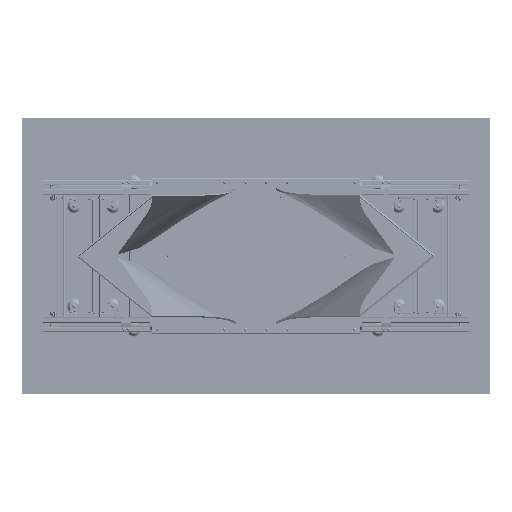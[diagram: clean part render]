
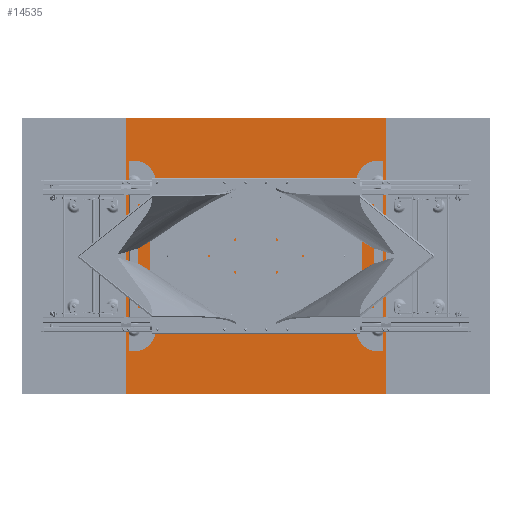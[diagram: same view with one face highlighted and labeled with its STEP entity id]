
A CAD part, front view. The second image highlights one B-rep face of the part: STEP entity #14535.
In plain terms, the highlighted planar face has unit normal (0, -1, 0).
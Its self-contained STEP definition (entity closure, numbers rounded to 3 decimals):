
#5089 = ORIENTED_EDGE ( 'NONE', *, *, #10940, .F. ) ;
#6742 = FACE_OUTER_BOUND ( 'NONE', #7644, .T. ) ;
#7644 = EDGE_LOOP ( 'NONE', ( #12266, #48451, #8555, #5089 ) ) ;
#8555 = ORIENTED_EDGE ( 'NONE', *, *, #45715, .T. ) ;
#10940 = EDGE_CURVE ( 'NONE', #11315, #30608, #69799, .T. ) ;
#11315 = VERTEX_POINT ( 'NONE', #60608 ) ;
#12266 = ORIENTED_EDGE ( 'NONE', *, *, #35163, .F. ) ;
#14535 = ADVANCED_FACE ( 'NONE', ( #6742 ), #63275, .F. ) ;
#15495 = CARTESIAN_POINT ( 'NONE',  ( 900., 0., -530. ) ) ;
#19225 = VERTEX_POINT ( 'NONE', #32298 ) ;
#26910 = VECTOR ( 'NONE', #44068, 1000. ) ;
#27845 = CARTESIAN_POINT ( 'NONE',  ( 900., 0., 530. ) ) ;
#28167 = EDGE_CURVE ( 'NONE', #19225, #74761, #35026, .T. ) ;
#30608 = VERTEX_POINT ( 'NONE', #65678 ) ;
#30853 = DIRECTION ( 'NONE',  ( 0., 1., 0. ) ) ;
#30857 = VECTOR ( 'NONE', #47521, 1000. ) ;
#32096 = CARTESIAN_POINT ( 'NONE',  ( 0., 0., 0. ) ) ;
#32298 = CARTESIAN_POINT ( 'NONE',  ( 900., 0., -530. ) ) ;
#35026 = LINE ( 'NONE', #15495, #30857 ) ;
#35163 = EDGE_CURVE ( 'NONE', #19225, #11315, #65145, .T. ) ;
#40758 = DIRECTION ( 'NONE',  ( -1., 0., 0. ) ) ;
#41442 = VECTOR ( 'NONE', #46880, 1000. ) ;
#44068 = DIRECTION ( 'NONE',  ( 0., 0., 1. ) ) ;
#45715 = EDGE_CURVE ( 'NONE', #74761, #30608, #67703, .T. ) ;
#46081 = CARTESIAN_POINT ( 'NONE',  ( 900., 0., -530. ) ) ;
#46880 = DIRECTION ( 'NONE',  ( -1., 0., 0. ) ) ;
#47226 = AXIS2_PLACEMENT_3D ( 'NONE', #32096, #30853, #51238 ) ;
#47521 = DIRECTION ( 'NONE',  ( 0., 0., 1. ) ) ;
#48451 = ORIENTED_EDGE ( 'NONE', *, *, #28167, .T. ) ;
#49476 = CARTESIAN_POINT ( 'NONE',  ( -900., 0., -530. ) ) ;
#51238 = DIRECTION ( 'NONE',  ( 0., 0., 1. ) ) ;
#59603 = CARTESIAN_POINT ( 'NONE',  ( 900., 0., 530. ) ) ;
#60608 = CARTESIAN_POINT ( 'NONE',  ( -900., 0., -530. ) ) ;
#63275 = PLANE ( 'NONE',  #47226 ) ;
#65145 = LINE ( 'NONE', #46081, #41442 ) ;
#65678 = CARTESIAN_POINT ( 'NONE',  ( -900., 0., 530. ) ) ;
#67703 = LINE ( 'NONE', #27845, #76560 ) ;
#69799 = LINE ( 'NONE', #49476, #26910 ) ;
#74761 = VERTEX_POINT ( 'NONE', #59603 ) ;
#76560 = VECTOR ( 'NONE', #40758, 1000. ) ;
